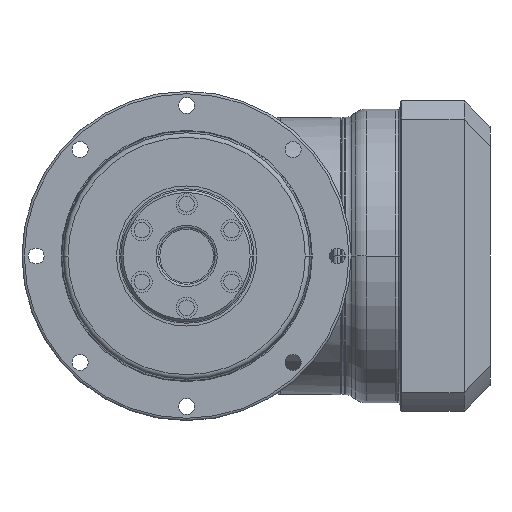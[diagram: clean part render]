
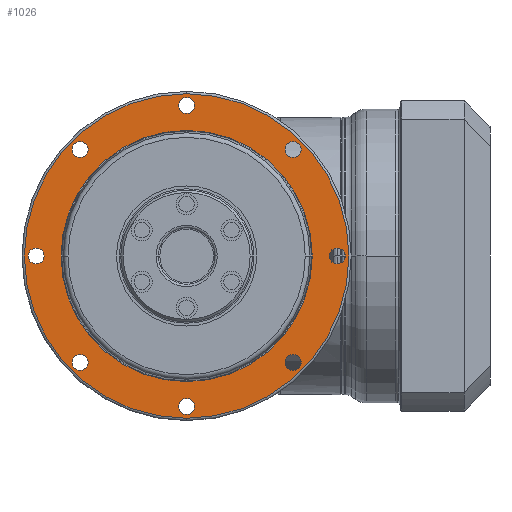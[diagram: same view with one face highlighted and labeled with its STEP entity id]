
A CAD part, left-side view. The second image highlights one B-rep face of the part: STEP entity #1026.
In plain terms, the highlighted planar face has unit normal (-1, 0, 0).
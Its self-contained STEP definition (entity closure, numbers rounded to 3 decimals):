
#193=CARTESIAN_POINT('',(11.5,32.,0.));
#194=DIRECTION('',(-1.,0.,0.));
#195=DIRECTION('',(0.,0.,1.));
#196=AXIS2_PLACEMENT_3D('',#193,#194,#195);
#198=CARTESIAN_POINT('',(11.5,32.,0.));
#199=DIRECTION('',(-1.,0.,0.));
#200=DIRECTION('',(0.,0.,-1.));
#201=AXIS2_PLACEMENT_3D('',#198,#199,#200);
#203=CARTESIAN_POINT('',(11.5,22.627,22.627));
#204=DIRECTION('',(-1.,0.,0.));
#205=DIRECTION('',(0.,-0.707,0.707));
#206=AXIS2_PLACEMENT_3D('',#203,#204,#205);
#208=CARTESIAN_POINT('',(11.5,22.627,22.627));
#209=DIRECTION('',(-1.,0.,0.));
#210=DIRECTION('',(0.,0.707,-0.707));
#211=AXIS2_PLACEMENT_3D('',#208,#209,#210);
#213=CARTESIAN_POINT('',(11.5,0.,32.));
#214=DIRECTION('',(-1.,0.,0.));
#215=DIRECTION('',(0.,-1.,0.));
#216=AXIS2_PLACEMENT_3D('',#213,#214,#215);
#218=CARTESIAN_POINT('',(11.5,0.,32.));
#219=DIRECTION('',(-1.,0.,0.));
#220=DIRECTION('',(0.,1.,0.));
#221=AXIS2_PLACEMENT_3D('',#218,#219,#220);
#223=CARTESIAN_POINT('',(11.5,-22.627,22.627));
#224=DIRECTION('',(-1.,0.,0.));
#225=DIRECTION('',(0.,-0.707,-0.707));
#226=AXIS2_PLACEMENT_3D('',#223,#224,#225);
#228=CARTESIAN_POINT('',(11.5,-22.627,22.627));
#229=DIRECTION('',(-1.,0.,0.));
#230=DIRECTION('',(0.,0.707,0.707));
#231=AXIS2_PLACEMENT_3D('',#228,#229,#230);
#233=CARTESIAN_POINT('',(11.5,-32.,0.));
#234=DIRECTION('',(-1.,0.,0.));
#235=DIRECTION('',(0.,0.,-1.));
#236=AXIS2_PLACEMENT_3D('',#233,#234,#235);
#238=CARTESIAN_POINT('',(11.5,-32.,0.));
#239=DIRECTION('',(-1.,0.,0.));
#240=DIRECTION('',(0.,0.,1.));
#241=AXIS2_PLACEMENT_3D('',#238,#239,#240);
#243=CARTESIAN_POINT('',(11.5,-22.627,-22.627));
#244=DIRECTION('',(-1.,0.,0.));
#245=DIRECTION('',(0.,0.707,-0.707));
#246=AXIS2_PLACEMENT_3D('',#243,#244,#245);
#248=CARTESIAN_POINT('',(11.5,-22.627,-22.627));
#249=DIRECTION('',(-1.,0.,0.));
#250=DIRECTION('',(0.,-0.707,0.707));
#251=AXIS2_PLACEMENT_3D('',#248,#249,#250);
#253=CARTESIAN_POINT('',(11.5,0.,-32.));
#254=DIRECTION('',(-1.,0.,0.));
#255=DIRECTION('',(0.,1.,0.));
#256=AXIS2_PLACEMENT_3D('',#253,#254,#255);
#258=CARTESIAN_POINT('',(11.5,0.,-32.));
#259=DIRECTION('',(-1.,0.,0.));
#260=DIRECTION('',(0.,-1.,0.));
#261=AXIS2_PLACEMENT_3D('',#258,#259,#260);
#263=CARTESIAN_POINT('',(11.5,22.627,-22.627));
#264=DIRECTION('',(-1.,0.,0.));
#265=DIRECTION('',(0.,0.707,0.707));
#266=AXIS2_PLACEMENT_3D('',#263,#264,#265);
#268=CARTESIAN_POINT('',(11.5,22.627,-22.627));
#269=DIRECTION('',(-1.,0.,0.));
#270=DIRECTION('',(0.,-0.707,-0.707));
#271=AXIS2_PLACEMENT_3D('',#268,#269,#270);
#273=CARTESIAN_POINT('',(11.5,0.,0.));
#274=DIRECTION('',(-1.,0.,0.));
#275=DIRECTION('',(0.,1.,0.));
#276=AXIS2_PLACEMENT_3D('',#273,#274,#275);
#278=CARTESIAN_POINT('',(11.5,0.,0.));
#279=DIRECTION('',(-1.,0.,0.));
#280=DIRECTION('',(0.,-1.,0.));
#281=AXIS2_PLACEMENT_3D('',#278,#279,#280);
#283=CARTESIAN_POINT('',(11.5,0.,0.));
#284=DIRECTION('',(-1.,0.,0.));
#285=DIRECTION('',(0.,0.,-1.));
#286=AXIS2_PLACEMENT_3D('',#283,#284,#285);
#288=CARTESIAN_POINT('',(11.5,0.,0.));
#289=DIRECTION('',(-1.,0.,0.));
#290=DIRECTION('',(0.,0.,1.));
#291=AXIS2_PLACEMENT_3D('',#288,#289,#290);
#613=CARTESIAN_POINT('',(11.5,32.,1.7));
#614=CARTESIAN_POINT('',(11.5,32.,-1.7));
#615=VERTEX_POINT('',#613);
#616=VERTEX_POINT('',#614);
#621=CARTESIAN_POINT('',(11.5,21.425,23.829));
#622=CARTESIAN_POINT('',(11.5,23.829,21.425));
#623=VERTEX_POINT('',#621);
#624=VERTEX_POINT('',#622);
#629=CARTESIAN_POINT('',(11.5,-1.7,32.));
#630=CARTESIAN_POINT('',(11.5,1.7,32.));
#631=VERTEX_POINT('',#629);
#632=VERTEX_POINT('',#630);
#637=CARTESIAN_POINT('',(11.5,-23.829,21.425));
#638=CARTESIAN_POINT('',(11.5,-21.425,23.829));
#639=VERTEX_POINT('',#637);
#640=VERTEX_POINT('',#638);
#645=CARTESIAN_POINT('',(11.5,-32.,-1.7));
#646=CARTESIAN_POINT('',(11.5,-32.,1.7));
#647=VERTEX_POINT('',#645);
#648=VERTEX_POINT('',#646);
#653=CARTESIAN_POINT('',(11.5,-21.425,-23.829));
#654=CARTESIAN_POINT('',(11.5,-23.829,-21.425));
#655=VERTEX_POINT('',#653);
#656=VERTEX_POINT('',#654);
#661=CARTESIAN_POINT('',(11.5,1.7,-32.));
#662=CARTESIAN_POINT('',(11.5,-1.7,-32.));
#663=VERTEX_POINT('',#661);
#664=VERTEX_POINT('',#662);
#669=CARTESIAN_POINT('',(11.5,23.829,-21.425));
#670=CARTESIAN_POINT('',(11.5,21.425,-23.829));
#671=VERTEX_POINT('',#669);
#672=VERTEX_POINT('',#670);
#685=CARTESIAN_POINT('',(11.5,26.7,0.));
#686=CARTESIAN_POINT('',(11.5,-26.7,0.));
#687=VERTEX_POINT('',#685);
#688=VERTEX_POINT('',#686);
#745=CARTESIAN_POINT('',(11.5,0.,-34.5));
#746=CARTESIAN_POINT('',(11.5,0.,34.5));
#747=VERTEX_POINT('',#745);
#748=VERTEX_POINT('',#746);
#962=CARTESIAN_POINT('',(11.5,0.,0.));
#963=DIRECTION('',(-1.,0.,0.));
#964=DIRECTION('',(0.,0.,1.));
#965=AXIS2_PLACEMENT_3D('',#962,#963,#964);
#966=PLANE('',#965);
#968=ORIENTED_EDGE('',*,*,#967,.F.);
#970=ORIENTED_EDGE('',*,*,#969,.F.);
#971=EDGE_LOOP('',(#968,#970));
#972=FACE_OUTER_BOUND('',#971,.F.);
#973=ORIENTED_EDGE('',*,*,#952,.T.);
#975=ORIENTED_EDGE('',*,*,#974,.T.);
#976=EDGE_LOOP('',(#973,#975));
#977=FACE_BOUND('',#976,.F.);
#979=ORIENTED_EDGE('',*,*,#978,.T.);
#981=ORIENTED_EDGE('',*,*,#980,.T.);
#982=EDGE_LOOP('',(#979,#981));
#983=FACE_BOUND('',#982,.F.);
#985=ORIENTED_EDGE('',*,*,#984,.T.);
#987=ORIENTED_EDGE('',*,*,#986,.T.);
#988=EDGE_LOOP('',(#985,#987));
#989=FACE_BOUND('',#988,.F.);
#991=ORIENTED_EDGE('',*,*,#990,.T.);
#993=ORIENTED_EDGE('',*,*,#992,.T.);
#994=EDGE_LOOP('',(#991,#993));
#995=FACE_BOUND('',#994,.F.);
#997=ORIENTED_EDGE('',*,*,#996,.T.);
#999=ORIENTED_EDGE('',*,*,#998,.T.);
#1000=EDGE_LOOP('',(#997,#999));
#1001=FACE_BOUND('',#1000,.F.);
#1003=ORIENTED_EDGE('',*,*,#1002,.T.);
#1005=ORIENTED_EDGE('',*,*,#1004,.T.);
#1006=EDGE_LOOP('',(#1003,#1005));
#1007=FACE_BOUND('',#1006,.F.);
#1009=ORIENTED_EDGE('',*,*,#1008,.T.);
#1011=ORIENTED_EDGE('',*,*,#1010,.T.);
#1012=EDGE_LOOP('',(#1009,#1011));
#1013=FACE_BOUND('',#1012,.F.);
#1015=ORIENTED_EDGE('',*,*,#1014,.T.);
#1017=ORIENTED_EDGE('',*,*,#1016,.T.);
#1018=EDGE_LOOP('',(#1015,#1017));
#1019=FACE_BOUND('',#1018,.F.);
#1021=ORIENTED_EDGE('',*,*,#1020,.T.);
#1023=ORIENTED_EDGE('',*,*,#1022,.T.);
#1024=EDGE_LOOP('',(#1021,#1023));
#1025=FACE_BOUND('',#1024,.F.);
#1026=ADVANCED_FACE('',(#972,#977,#983,#989,#995,#1001,#1007,#1013,#1019,#1025),
#966,.T.);
#197=CIRCLE('',#196,1.7);
#202=CIRCLE('',#201,1.7);
#207=CIRCLE('',#206,1.7);
#212=CIRCLE('',#211,1.7);
#217=CIRCLE('',#216,1.7);
#222=CIRCLE('',#221,1.7);
#227=CIRCLE('',#226,1.7);
#232=CIRCLE('',#231,1.7);
#237=CIRCLE('',#236,1.7);
#242=CIRCLE('',#241,1.7);
#247=CIRCLE('',#246,1.7);
#252=CIRCLE('',#251,1.7);
#257=CIRCLE('',#256,1.7);
#262=CIRCLE('',#261,1.7);
#267=CIRCLE('',#266,1.7);
#272=CIRCLE('',#271,1.7);
#277=CIRCLE('',#276,26.7);
#282=CIRCLE('',#281,26.7);
#287=CIRCLE('',#286,34.5);
#292=CIRCLE('',#291,34.5);
#952=EDGE_CURVE('',#615,#616,#197,.T.);
#967=EDGE_CURVE('',#747,#748,#287,.T.);
#969=EDGE_CURVE('',#748,#747,#292,.T.);
#974=EDGE_CURVE('',#616,#615,#202,.T.);
#978=EDGE_CURVE('',#623,#624,#207,.T.);
#980=EDGE_CURVE('',#624,#623,#212,.T.);
#984=EDGE_CURVE('',#631,#632,#217,.T.);
#986=EDGE_CURVE('',#632,#631,#222,.T.);
#990=EDGE_CURVE('',#639,#640,#227,.T.);
#992=EDGE_CURVE('',#640,#639,#232,.T.);
#996=EDGE_CURVE('',#647,#648,#237,.T.);
#998=EDGE_CURVE('',#648,#647,#242,.T.);
#1002=EDGE_CURVE('',#655,#656,#247,.T.);
#1004=EDGE_CURVE('',#656,#655,#252,.T.);
#1008=EDGE_CURVE('',#663,#664,#257,.T.);
#1010=EDGE_CURVE('',#664,#663,#262,.T.);
#1014=EDGE_CURVE('',#671,#672,#267,.T.);
#1016=EDGE_CURVE('',#672,#671,#272,.T.);
#1020=EDGE_CURVE('',#687,#688,#277,.T.);
#1022=EDGE_CURVE('',#688,#687,#282,.T.);
